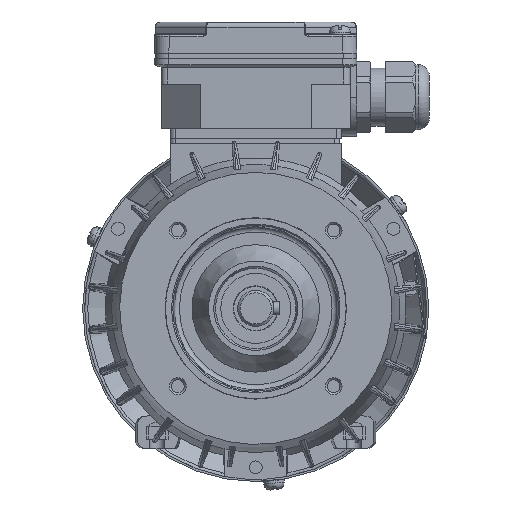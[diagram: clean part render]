
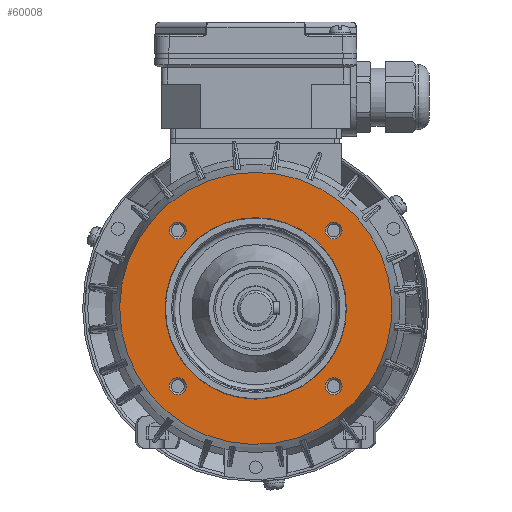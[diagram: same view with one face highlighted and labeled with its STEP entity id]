
A CAD part, front view. The second image highlights one B-rep face of the part: STEP entity #60008.
In plain terms, the highlighted planar face has unit normal (0, -1, 0).
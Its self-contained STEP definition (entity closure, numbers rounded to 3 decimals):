
#17207=ORIENTED_EDGE('',*,*,#26085,.T.);
#17208=ORIENTED_EDGE('',*,*,#26084,.T.);
#17209=ORIENTED_EDGE('',*,*,#26083,.T.);
#17210=ORIENTED_EDGE('',*,*,#26082,.T.);
#17211=ORIENTED_EDGE('',*,*,#26151,.F.);
#17212=ORIENTED_EDGE('',*,*,#26081,.T.);
#26081=EDGE_CURVE('',#31292,#31292,#33950,.T.);
#26082=EDGE_CURVE('',#31293,#31293,#33951,.T.);
#26083=EDGE_CURVE('',#31294,#31294,#33952,.T.);
#26084=EDGE_CURVE('',#31295,#31295,#33953,.T.);
#26085=EDGE_CURVE('',#31296,#31296,#33954,.T.);
#26151=EDGE_CURVE('',#31344,#31344,#33975,.T.);
#31292=VERTEX_POINT('',#92624);
#31293=VERTEX_POINT('',#92627);
#31294=VERTEX_POINT('',#92630);
#31295=VERTEX_POINT('',#92633);
#31296=VERTEX_POINT('',#92636);
#31344=VERTEX_POINT('',#92866);
#33950=CIRCLE('',#63659,52.495);
#33951=CIRCLE('',#63661,3.258);
#33952=CIRCLE('',#63663,3.258);
#33953=CIRCLE('',#63665,3.258);
#33954=CIRCLE('',#63667,3.258);
#33975=CIRCLE('',#63720,34.997);
#36556=EDGE_LOOP('',(#17207));
#36557=EDGE_LOOP('',(#17208));
#36558=EDGE_LOOP('',(#17209));
#36559=EDGE_LOOP('',(#17210));
#36560=EDGE_LOOP('',(#17211));
#36561=EDGE_LOOP('',(#17212));
#39399=FACE_BOUND('',#36556,.T.);
#39400=FACE_BOUND('',#36557,.T.);
#39401=FACE_BOUND('',#36558,.T.);
#39402=FACE_BOUND('',#36559,.T.);
#39403=FACE_BOUND('',#36560,.T.);
#39404=FACE_BOUND('',#36561,.T.);
#41165=PLANE('',#63719);
#60008=ADVANCED_FACE('',(#39399,#39400,#39401,#39402,#39403,#39404),#41165,
 .F.);
#63659=AXIS2_PLACEMENT_3D('',#92623,#72735,#72736);
#63661=AXIS2_PLACEMENT_3D('',#92626,#72739,#72740);
#63663=AXIS2_PLACEMENT_3D('',#92629,#72743,#72744);
#63665=AXIS2_PLACEMENT_3D('',#92632,#72747,#72748);
#63667=AXIS2_PLACEMENT_3D('',#92635,#72751,#72752);
#63719=AXIS2_PLACEMENT_3D('',#92864,#72878,#72879);
#63720=AXIS2_PLACEMENT_3D('',#92865,#72880,#72881);
#72735=DIRECTION('',(0.,-1.,0.));
#72736=DIRECTION('',(0.,0.,1.));
#72739=DIRECTION('',(0.,1.,0.));
#72740=DIRECTION('',(1.,0.,0.));
#72743=DIRECTION('',(0.,1.,0.));
#72744=DIRECTION('',(1.,0.,0.));
#72747=DIRECTION('',(0.,1.,0.));
#72748=DIRECTION('',(1.,0.,0.));
#72751=DIRECTION('',(0.,1.,0.));
#72752=DIRECTION('',(1.,0.,0.));
#72878=DIRECTION('',(0.,1.,0.));
#72879=DIRECTION('',(0.,0.,-1.));
#72880=DIRECTION('',(0.,-1.,0.));
#72881=DIRECTION('',(0.,0.,1.));
#92623=CARTESIAN_POINT('',(0.,-40.492,0.001));
#92624=CARTESIAN_POINT('',(0.,-40.492,52.496));
#92626=CARTESIAN_POINT('',(30.049,-40.492,30.05));
#92627=CARTESIAN_POINT('',(33.307,-40.492,30.05));
#92629=CARTESIAN_POINT('',(30.049,-40.492,-30.048));
#92630=CARTESIAN_POINT('',(33.307,-40.492,-30.048));
#92632=CARTESIAN_POINT('',(-30.049,-40.492,-30.048));
#92633=CARTESIAN_POINT('',(-26.791,-40.492,-30.048));
#92635=CARTESIAN_POINT('',(-30.049,-40.492,30.05));
#92636=CARTESIAN_POINT('',(-26.791,-40.492,30.05));
#92864=CARTESIAN_POINT('',(0.,-40.492,52.496));
#92865=CARTESIAN_POINT('',(0.,-40.492,0.001));
#92866=CARTESIAN_POINT('',(0.,-40.492,34.998));
